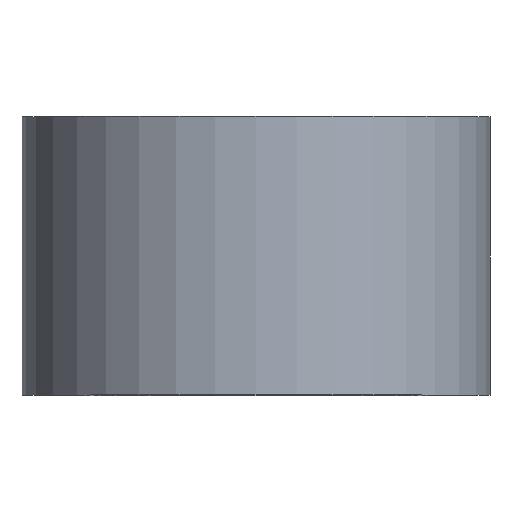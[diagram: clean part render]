
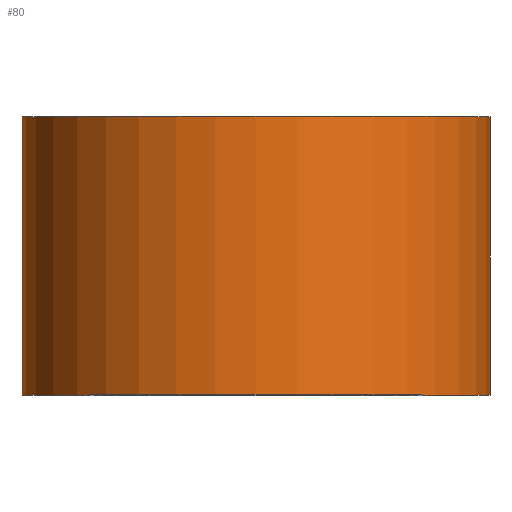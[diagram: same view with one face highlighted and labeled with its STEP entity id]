
A CAD part, top view. The second image highlights one B-rep face of the part: STEP entity #80.
In plain terms, the highlighted cylindrical face has radius 21 mm (diameter 42 mm), a partial arc.
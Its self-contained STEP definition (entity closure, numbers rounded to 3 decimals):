
#5 = ORIENTED_EDGE ( 'NONE', *, *, #42, .T. ) ;
#10 = DIRECTION ( 'NONE',  ( -1., 0., 0. ) ) ;
#15 = AXIS2_PLACEMENT_3D ( 'NONE', #187, #210, #10 ) ;
#37 = CYLINDRICAL_SURFACE ( 'NONE', #53, 21. ) ;
#42 = EDGE_CURVE ( 'NONE', #180, #258, #226, .T. ) ;
#45 = VERTEX_POINT ( 'NONE', #287 ) ;
#49 = CARTESIAN_POINT ( 'NONE',  ( 0., 0., 0. ) ) ;
#53 = AXIS2_PLACEMENT_3D ( 'NONE', #49, #267, #165 ) ;
#80 = ADVANCED_FACE ( 'NONE', ( #290 ), #37, .T. ) ;
#81 = DIRECTION ( 'NONE',  ( 0., 1., 0. ) ) ;
#86 = VERTEX_POINT ( 'NONE', #125 ) ;
#89 = CARTESIAN_POINT ( 'NONE',  ( 21., 25., 0. ) ) ;
#93 = VECTOR ( 'NONE', #81, 1000. ) ;
#125 = CARTESIAN_POINT ( 'NONE',  ( -21., 0., 0. ) ) ;
#141 = EDGE_CURVE ( 'NONE', #86, #180, #152, .T. ) ;
#149 = EDGE_CURVE ( 'NONE', #45, #258, #269, .T. ) ;
#152 = CIRCLE ( 'NONE', #191, 21. ) ;
#160 = EDGE_CURVE ( 'NONE', #86, #45, #213, .T. ) ;
#165 = DIRECTION ( 'NONE',  ( -1., 0., 0. ) ) ;
#173 = ORIENTED_EDGE ( 'NONE', *, *, #149, .F. ) ;
#176 = EDGE_LOOP ( 'NONE', ( #197, #5, #173, #182 ) ) ;
#180 = VERTEX_POINT ( 'NONE', #192 ) ;
#182 = ORIENTED_EDGE ( 'NONE', *, *, #160, .F. ) ;
#185 = DIRECTION ( 'NONE',  ( -1., 0., 0. ) ) ;
#187 = CARTESIAN_POINT ( 'NONE',  ( 0., 25., 0. ) ) ;
#191 = AXIS2_PLACEMENT_3D ( 'NONE', #212, #234, #185 ) ;
#192 = CARTESIAN_POINT ( 'NONE',  ( 21., 0., 0. ) ) ;
#197 = ORIENTED_EDGE ( 'NONE', *, *, #141, .T. ) ;
#208 = CARTESIAN_POINT ( 'NONE',  ( 21., 0., 0. ) ) ;
#209 = VECTOR ( 'NONE', #236, 1000. ) ;
#210 = DIRECTION ( 'NONE',  ( 0., 1., 0. ) ) ;
#212 = CARTESIAN_POINT ( 'NONE',  ( 0., 0., 0. ) ) ;
#213 = LINE ( 'NONE', #241, #93 ) ;
#226 = LINE ( 'NONE', #208, #209 ) ;
#234 = DIRECTION ( 'NONE',  ( 0., 1., 0. ) ) ;
#236 = DIRECTION ( 'NONE',  ( 0., 1., 0. ) ) ;
#241 = CARTESIAN_POINT ( 'NONE',  ( -21., 0., 0. ) ) ;
#258 = VERTEX_POINT ( 'NONE', #89 ) ;
#267 = DIRECTION ( 'NONE',  ( 0., 1., 0. ) ) ;
#269 = CIRCLE ( 'NONE', #15, 21. ) ;
#287 = CARTESIAN_POINT ( 'NONE',  ( -21., 25., 0. ) ) ;
#290 = FACE_OUTER_BOUND ( 'NONE', #176, .T. ) ;
